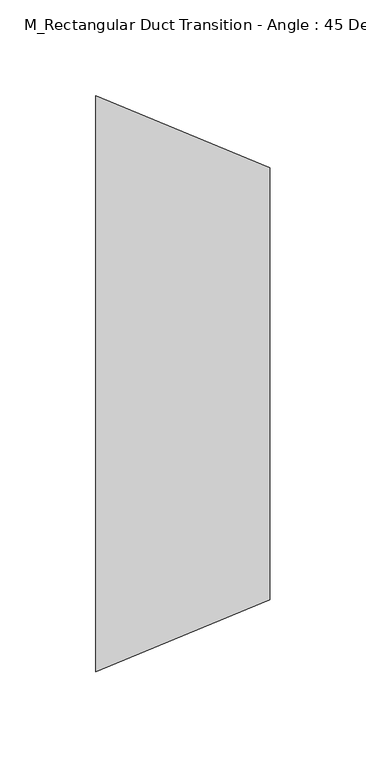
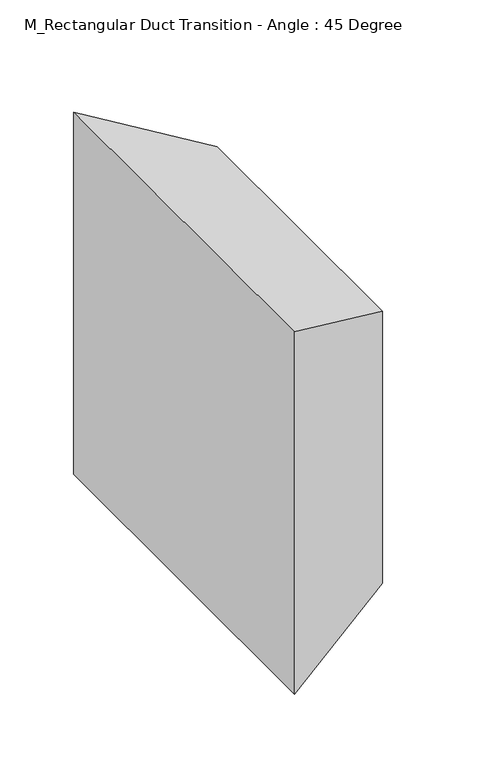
"""IFC4 building model written with IfcOpenShell, lengths in millimetres: duct fitting geometry, M_Rectangular Duct Transition - Angle : 45 Degree."""

from ifc_helpers import new_model, si_unit, origin, place, context, project, spatial, faceted_brep, source, transform, mapped, element, save


def m_rectangular_duct_transition_angle_45_degree_f0aa5960(model_context):
    return source(origin(), model_context, "Body", "Brep", [
        faceted_brep([(90.5330086, -112.5, 112.5), (90.5330086, -112.5, -112.5), (90.5330086, 112.5, -112.5), (90.5330086, 112.5, 112.5), (0.0, -150.0, 150.0), (0.0, 150.0, 150.0), (0.0, 150.0, -150.0), (0.0, -150.0, -150.0)], [[[0, 1, 2, 3]], [[4, 5, 6, 7]], [[4, 7, 1, 0]], [[7, 6, 2, 1]], [[6, 5, 3, 2]], [[5, 4, 0, 3]]]),
        faceted_brep([(90.5330086, -112.5, 112.5), (90.5330086, -112.5, -112.5), (90.5330086, 112.5, -112.5), (90.5330086, 112.5, 112.5), (0.0, -150.0, 150.0), (0.0, 150.0, 150.0), (0.0, 150.0, -150.0), (0.0, -150.0, -150.0)], [[[0, 1, 2, 3]], [[4, 5, 6, 7]], [[4, 7, 1, 0]], [[7, 6, 2, 1]], [[6, 5, 3, 2]], [[5, 4, 0, 3]]]),
        faceted_brep([(90.5330086, -112.5, 112.5), (90.5330086, -112.5, -112.5), (90.5330086, 112.5, -112.5), (90.5330086, 112.5, 112.5), (0.0, -150.0, 150.0), (0.0, 150.0, 150.0), (0.0, 150.0, -150.0), (0.0, -150.0, -150.0)], [[[0, 1, 2, 3]], [[4, 5, 6, 7]], [[4, 7, 1, 0]], [[7, 6, 2, 1]], [[6, 5, 3, 2]], [[5, 4, 0, 3]]]),
    ])


if __name__ == "__main__":
    model = new_model("IFC4")
    model_context = context("Model", 3, world=origin())
    ifc_project = project(units=[si_unit("LENGTHUNIT", "METRE", prefix="MILLI")], contexts=[model_context])
    site = spatial("IfcSite", under=ifc_project)
    building = spatial("IfcBuilding", under=site)
    placement = place(None, origin())
    m_rectangular_duct_transition_angle_45_degree_shape = m_rectangular_duct_transition_angle_45_degree_f0aa5960(model_context)
    element("IfcDuctFitting", 1, ObjectType="M_Rectangular Duct Transition - Angle : 45 Degree", at=placement, inside=building, context=model_context, shape_type="MappedRepresentation", body=[
        mapped(m_rectangular_duct_transition_angle_45_degree_shape, transform((0.0, 0.0, 0.0), x_axis=(1.0, 0.0, 0.0), y_axis=(0.0, 1.0, 0.0), z_axis=(0.0, 0.0, 1.0))),
    ])
    save(model, "model.ifc")
